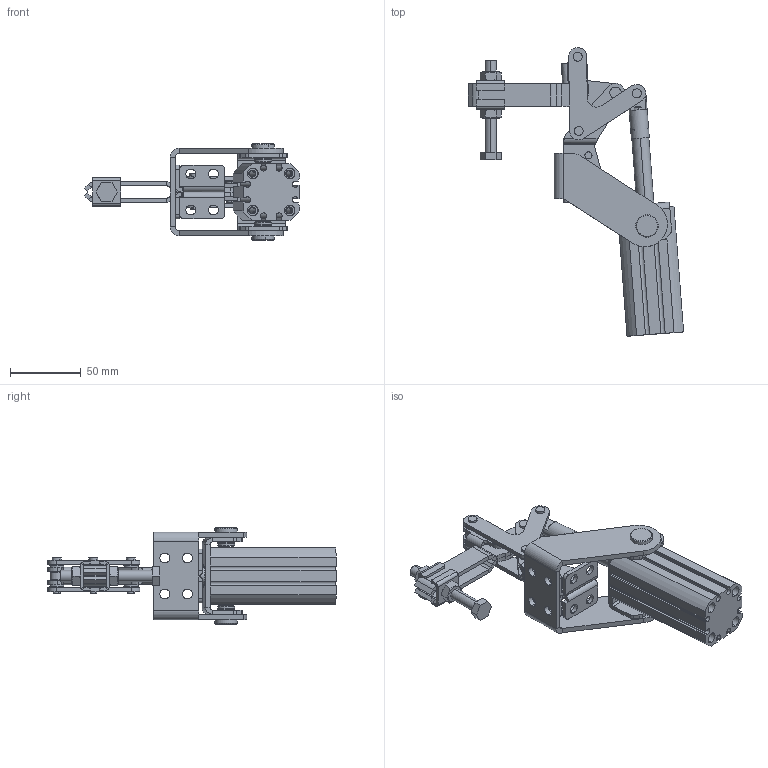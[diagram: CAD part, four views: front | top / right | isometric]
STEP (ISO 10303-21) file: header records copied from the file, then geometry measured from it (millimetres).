
FILE_DESCRIPTION (( 'STEP AP203' ), '1' );
FILE_NAME ('KF-718 B P.STEP', '2014-08-28T19:47:25', ( 'Ricardo' ), ( '' ), 'SwSTEP 2.0', 'SolidWorks 2013', '' );
FILE_SCHEMA (( 'CONFIG_CONTROL_DESIGN' ));
Length unit declared in the file: millimetre
Products named in the file (25): 03.13041_Esquerda; 05.20001; 12.50020; 06.50023; 01.10122_Direita; 14.10001; 06.50028; 01.10122_Esquerda; 11.50002; 06.50048; 02.12080_Direita; PS-M8; 15.10070; 02.12080_Esquerda; HI_CD55B25-50(0)_BODY; 15.20007; 16.20068; 04.10016; HI_C55B25-50M(0)_ROD; 05.20041; 15.10069; CD55B25-50M_avan㌢do; 03.13041_Direita; 17.50011; KF-718 B P
Assembly tree (40 placements, depth 3):
  KF-718 B P
    01.10122_Direita
    01.10122_Esquerda
    02.12080_Direita
    02.12080_Esquerda
    04.10016
    15.10069
    17.50011  x8
    05.20001  x2
    06.50023  x2
    06.50028  x3
    06.50048  x2
    15.10070
    16.20068  x2
    15.20007
    05.20041  x2
    03.13041_Direita
    03.13041_Esquerda
    PS-M8
      12.50020
      14.10001  x2
      11.50002  x2
    CD55B25-50M_avan㌢do
      HI_CD55B25-50(0)_BODY
      HI_C55B25-50M(0)_ROD
Bounding box: 151.75 x 203.47 x 68 mm (x, y, z)
Volume: 187243.3 mm3; surface area: 108506.1 mm2
Topology: 38 solids, 38 shells, 914 faces, 2121 edges, 1308 vertices
Faces by surface type: cylinder 405, plane 354, cone 144, bspline 10, sphere 1
Entity records: 23804 total; most frequent: CARTESIAN_POINT 3868, DIRECTION 3763, ORIENTED_EDGE 3312, EDGE_CURVE 1656, AXIS2_PLACEMENT_3D 1436, VERTEX_POINT 1039, LINE 891, VECTOR 891
